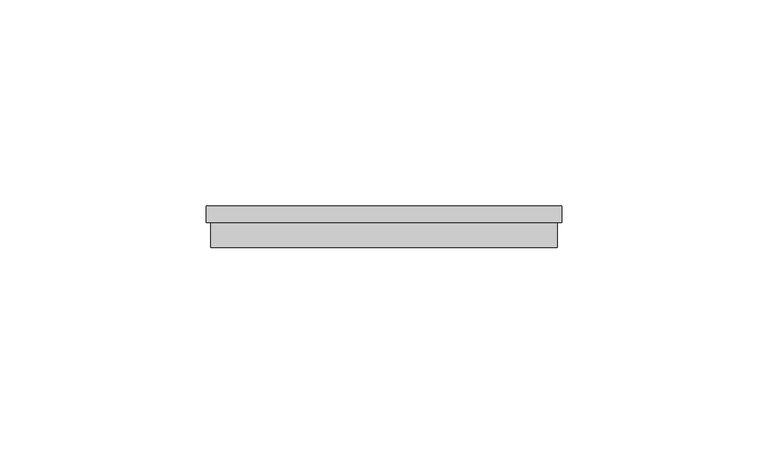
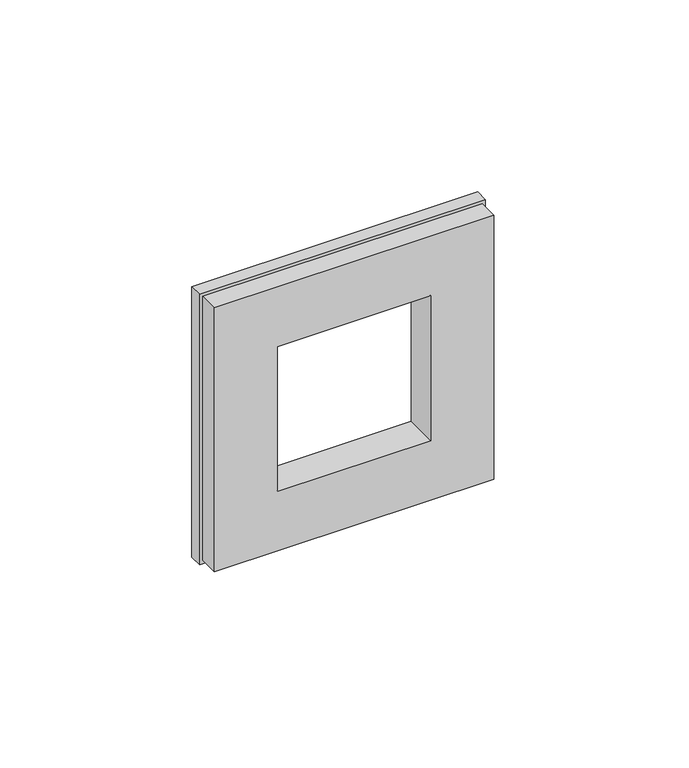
"""IFC4 building model written with IfcOpenShell, lengths in millimetres: proxy geometry, IEK_Skandy_Рамка : x1_SK-F31Bl."""

from ifc_helpers import new_model, si_unit, origin, place, context, project, spatial, faceted_brep, source, transform, mapped, element, save


def electrical_fixtures_b3d71306(model_context):
    return source(origin(), model_context, "Body", "Brep", [
        faceted_brep([(23.0, 10.0, 23.0), (23.0, 0.0, 23.0), (-23.0, 0.0, 23.0), (-23.0, 10.0, 23.0), (23.0, 10.0, -23.0), (23.0, 0.0, -23.0), (-23.0, 10.0, -23.0), (-23.0, 0.0, -23.0), (-42.0, 0.0, 42.0), (-42.0, 0.0, -42.0), (42.0, 0.0, -42.0), (42.0, 0.0, 42.0), (-42.0, 6.0, 42.0), (-42.0, 6.0, -42.0), (42.0, 6.0, -42.0), (42.0, 6.0, 42.0), (-43.0, 6.0, 43.0), (-43.0, 6.0, -43.0), (43.0, 6.0, -43.0), (43.0, 6.0, 43.0), (-43.0, 10.0, 43.0), (-43.0, 10.0, -43.0), (43.0, 10.0, -43.0), (43.0, 10.0, 43.0)], [[[0, 1, 2, 3]], [[1, 0, 4, 5]], [[5, 4, 6, 7]], [[3, 2, 7, 6]], [[8, 9, 10, 11], [2, 1, 5, 7]], [[9, 8, 12, 13]], [[10, 9, 13, 14]], [[11, 10, 14, 15]], [[8, 11, 15, 12]], [[16, 17, 18, 19], [13, 12, 15, 14]], [[17, 16, 20, 21]], [[18, 17, 21, 22]], [[19, 18, 22, 23]], [[16, 19, 23, 20]], [[20, 23, 22, 21], [0, 3, 6, 4]]]),
    ])


if __name__ == "__main__":
    model = new_model("IFC4")
    model_context = context("Model", 3, world=origin())
    ifc_project = project(units=[si_unit("LENGTHUNIT", "METRE", prefix="MILLI")], contexts=[model_context])
    site = spatial("IfcSite", under=ifc_project)
    building = spatial("IfcBuilding", under=site)
    placement = place(None, origin())
    electrical_fixtures_shape = electrical_fixtures_b3d71306(model_context)
    element("IfcBuildingElementProxy", 1, Name="IEK_Skandy_Рамка : x1_SK-F31Bl", ObjectType="IEK_Skandy_Рамка : x1_SK-F31Bl", at=placement, inside=building, context=model_context, shape_type="MappedRepresentation", body=[
        mapped(electrical_fixtures_shape, transform((0.0, 0.0, 0.0), x_axis=(1.0, 0.0, 0.0), y_axis=(0.0, 1.0, 0.0), z_axis=(0.0, 0.0, 1.0))),
    ])
    save(model, "model.ifc")
